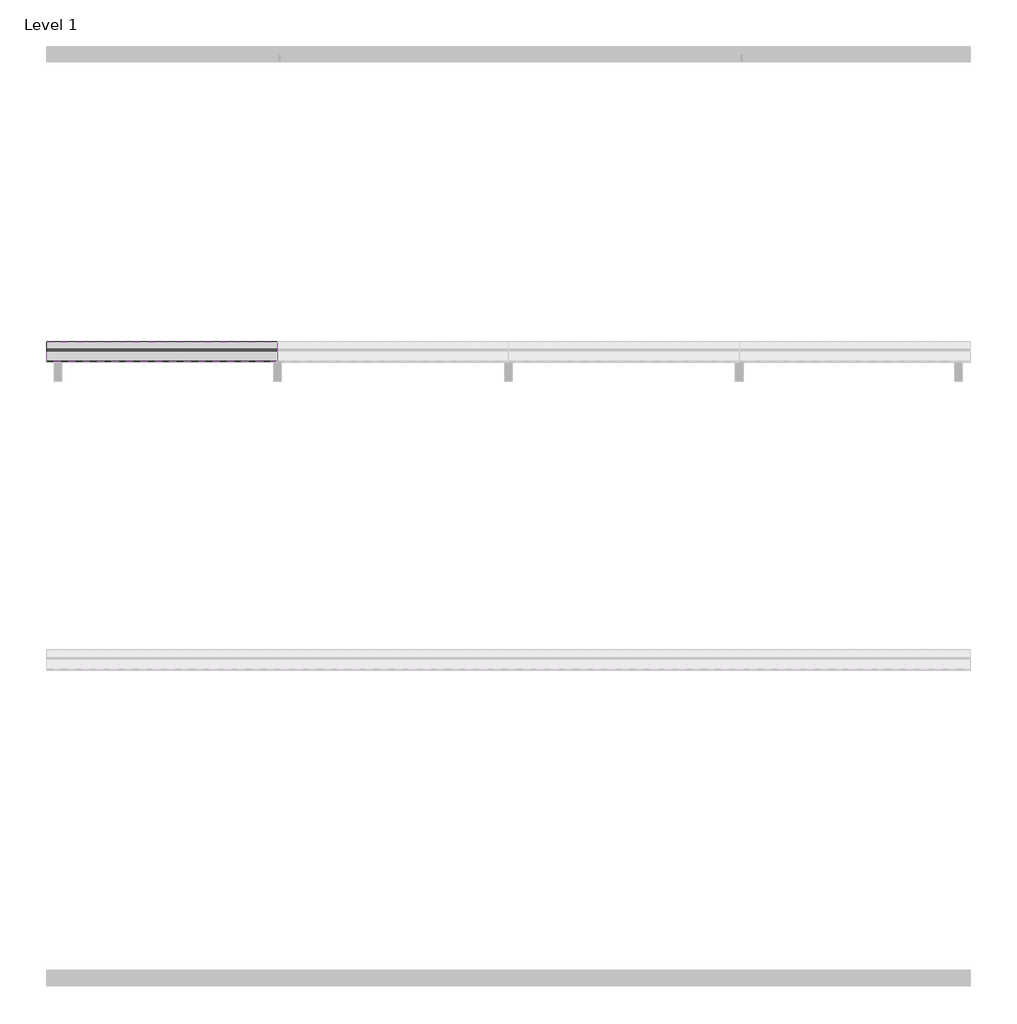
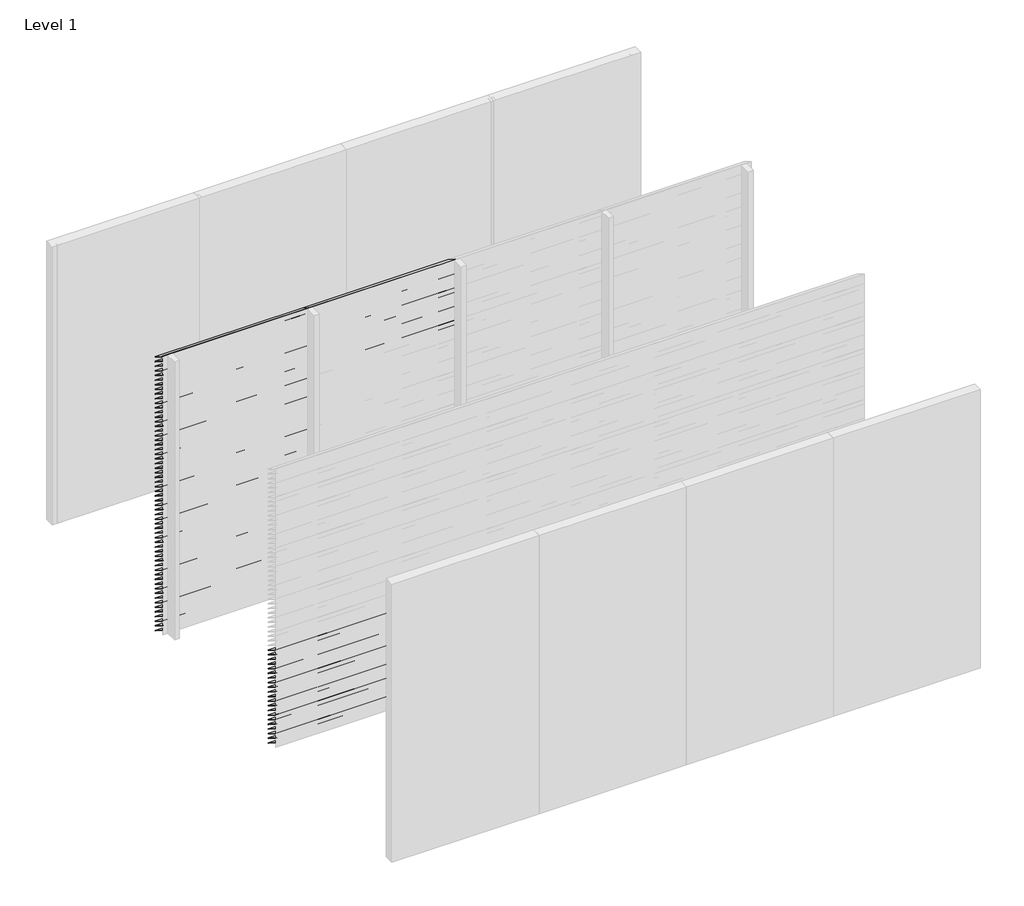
# One storey, part 2 of 13: 96 proxies.
"""IFC4 building model written with IfcOpenShell, lengths in millimetres."""

from ifc_helpers import new_model, si_unit, frame, origin, place, context, project, spatial, polyline, outline, extrude, element, save

model = new_model("IFC4")

# Units and contexts
model_context = context("Model", 3, world=origin())
ifc_project = project(units=[si_unit("LENGTHUNIT", "METRE", prefix="MILLI")], contexts=[model_context])

# Site, building, storey
site = spatial("IfcSite", under=ifc_project)
building = spatial("IfcBuilding", under=site)
storey = spatial("IfcBuildingStorey", under=building, Name="Level 1", Elevation=0.0)

# Proxies
placement = place(None, origin())
element("IfcBuildingElementProxy", 1, Name="Wall Sweeps", at=placement, inside=storey, context=model_context, shape_type="SweptSolid", body=[
    extrude(outline(polyline([(-17995.0, 3000.0), (-17995.0, 2998.0), (-17868.0, 2919.0), (-17868.0, 2913.0), (-17997.0, 2993.2440945), (-17997.0, 3000.0), (-17995.0, 3000.0)])), frame((1500.0000002, 0.0, 0.0), z_axis=(1.0, 0.0, 0.0), x_axis=(0.0, 1.0, 0.0)), (0.0, 0.0, 1.0), 1499.9999998),
])
element("IfcBuildingElementProxy", 2, Name="Wall Sweeps", at=placement, inside=storey, context=model_context, shape_type="SweptSolid", body=[
    extrude(outline(polyline([(-17995.0, 2950.0), (-17995.0, 2948.0), (-17868.0, 2869.0), (-17868.0, 2863.0), (-17997.0, 2943.2440945), (-17997.0, 2950.0), (-17995.0, 2950.0)])), frame((1500.0000002, 0.0, 0.0), z_axis=(1.0, 0.0, 0.0), x_axis=(0.0, 1.0, 0.0)), (0.0, 0.0, 1.0), 1499.9999998),
])
element("IfcBuildingElementProxy", 3, Name="Wall Sweeps", at=placement, inside=storey, context=model_context, shape_type="SweptSolid", body=[
    extrude(outline(polyline([(-17995.0, 2900.0), (-17995.0, 2898.0), (-17868.0, 2819.0), (-17868.0, 2813.0), (-17997.0, 2893.2440945), (-17997.0, 2900.0), (-17995.0, 2900.0)])), frame((1500.0000002, 0.0, 0.0), z_axis=(1.0, 0.0, 0.0), x_axis=(0.0, 1.0, 0.0)), (0.0, 0.0, 1.0), 1499.9999998),
])
element("IfcBuildingElementProxy", 4, Name="Wall Sweeps", at=placement, inside=storey, context=model_context, shape_type="SweptSolid", body=[
    extrude(outline(polyline([(-17995.0, 2850.0), (-17995.0, 2848.0), (-17868.0, 2769.0), (-17868.0, 2763.0), (-17997.0, 2843.2440945), (-17997.0, 2850.0), (-17995.0, 2850.0)])), frame((1500.0000002, 0.0, 0.0), z_axis=(1.0, 0.0, 0.0), x_axis=(0.0, 1.0, 0.0)), (0.0, 0.0, 1.0), 1499.9999998),
])
element("IfcBuildingElementProxy", 5, Name="Wall Sweeps", at=placement, inside=storey, context=model_context, shape_type="SweptSolid", body=[
    extrude(outline(polyline([(-17995.0, 2800.0), (-17995.0, 2798.0), (-17868.0, 2719.0), (-17868.0, 2713.0), (-17997.0, 2793.2440945), (-17997.0, 2800.0), (-17995.0, 2800.0)])), frame((1500.0000002, 0.0, 0.0), z_axis=(1.0, 0.0, 0.0), x_axis=(0.0, 1.0, 0.0)), (0.0, 0.0, 1.0), 1499.9999998),
])
element("IfcBuildingElementProxy", 6, Name="Wall Sweeps", at=placement, inside=storey, context=model_context, shape_type="SweptSolid", body=[
    extrude(outline(polyline([(-17995.0, 2750.0), (-17995.0, 2748.0), (-17868.0, 2669.0), (-17868.0, 2663.0), (-17997.0, 2743.2440945), (-17997.0, 2750.0), (-17995.0, 2750.0)])), frame((1500.0000002, 0.0, 0.0), z_axis=(1.0, 0.0, 0.0), x_axis=(0.0, 1.0, 0.0)), (0.0, 0.0, 1.0), 1499.9999998),
])
element("IfcBuildingElementProxy", 7, Name="Wall Sweeps", at=placement, inside=storey, context=model_context, shape_type="SweptSolid", body=[
    extrude(outline(polyline([(-17995.0, 2700.0), (-17995.0, 2698.0), (-17868.0, 2619.0), (-17868.0, 2613.0), (-17997.0, 2693.2440945), (-17997.0, 2700.0), (-17995.0, 2700.0)])), frame((1500.0000002, 0.0, 0.0), z_axis=(1.0, 0.0, 0.0), x_axis=(0.0, 1.0, 0.0)), (0.0, 0.0, 1.0), 1499.9999998),
])
element("IfcBuildingElementProxy", 8, Name="Wall Sweeps", at=placement, inside=storey, context=model_context, shape_type="SweptSolid", body=[
    extrude(outline(polyline([(-17995.0, 2650.0), (-17995.0, 2648.0), (-17868.0, 2569.0), (-17868.0, 2563.0), (-17997.0, 2643.2440945), (-17997.0, 2650.0), (-17995.0, 2650.0)])), frame((1500.0000002, 0.0, 0.0), z_axis=(1.0, 0.0, 0.0), x_axis=(0.0, 1.0, 0.0)), (0.0, 0.0, 1.0), 1499.9999998),
])
element("IfcBuildingElementProxy", 9, Name="Wall Sweeps", at=placement, inside=storey, context=model_context, shape_type="SweptSolid", body=[
    extrude(outline(polyline([(-17995.0, 2600.0), (-17995.0, 2598.0), (-17868.0, 2519.0), (-17868.0, 2513.0), (-17997.0, 2593.2440945), (-17997.0, 2600.0), (-17995.0, 2600.0)])), frame((1500.0000002, 0.0, 0.0), z_axis=(1.0, 0.0, 0.0), x_axis=(0.0, 1.0, 0.0)), (0.0, 0.0, 1.0), 1499.9999998),
])
element("IfcBuildingElementProxy", 10, Name="Wall Sweeps", at=placement, inside=storey, context=model_context, shape_type="SweptSolid", body=[
    extrude(outline(polyline([(-17995.0, 2550.0), (-17995.0, 2548.0), (-17868.0, 2469.0), (-17868.0, 2463.0), (-17997.0, 2543.2440945), (-17997.0, 2550.0), (-17995.0, 2550.0)])), frame((1500.0000002, 0.0, 0.0), z_axis=(1.0, 0.0, 0.0), x_axis=(0.0, 1.0, 0.0)), (0.0, 0.0, 1.0), 1499.9999998),
])
element("IfcBuildingElementProxy", 11, Name="Wall Sweeps", at=placement, inside=storey, context=model_context, shape_type="SweptSolid", body=[
    extrude(outline(polyline([(-17995.0, 2500.0), (-17995.0, 2498.0), (-17868.0, 2419.0), (-17868.0, 2413.0), (-17997.0, 2493.2440945), (-17997.0, 2500.0), (-17995.0, 2500.0)])), frame((1500.0000002, 0.0, 0.0), z_axis=(1.0, 0.0, 0.0), x_axis=(0.0, 1.0, 0.0)), (0.0, 0.0, 1.0), 1499.9999998),
])
element("IfcBuildingElementProxy", 12, Name="Wall Sweeps", at=placement, inside=storey, context=model_context, shape_type="SweptSolid", body=[
    extrude(outline(polyline([(-17995.0, 2450.0), (-17995.0, 2448.0), (-17868.0, 2369.0), (-17868.0, 2363.0), (-17997.0, 2443.2440945), (-17997.0, 2450.0), (-17995.0, 2450.0)])), frame((1500.0000002, 0.0, 0.0), z_axis=(1.0, 0.0, 0.0), x_axis=(0.0, 1.0, 0.0)), (0.0, 0.0, 1.0), 1499.9999998),
])
element("IfcBuildingElementProxy", 13, Name="Wall Sweeps", at=placement, inside=storey, context=model_context, shape_type="SweptSolid", body=[
    extrude(outline(polyline([(-17995.0, 2400.0), (-17995.0, 2398.0), (-17868.0, 2319.0), (-17868.0, 2313.0), (-17997.0, 2393.2440945), (-17997.0, 2400.0), (-17995.0, 2400.0)])), frame((1500.0000002, 0.0, 0.0), z_axis=(1.0, 0.0, 0.0), x_axis=(0.0, 1.0, 0.0)), (0.0, 0.0, 1.0), 1499.9999998),
])
element("IfcBuildingElementProxy", 14, Name="Wall Sweeps", at=placement, inside=storey, context=model_context, shape_type="SweptSolid", body=[
    extrude(outline(polyline([(-17995.0, 2350.0), (-17995.0, 2348.0), (-17868.0, 2269.0), (-17868.0, 2263.0), (-17997.0, 2343.2440945), (-17997.0, 2350.0), (-17995.0, 2350.0)])), frame((1500.0000002, 0.0, 0.0), z_axis=(1.0, 0.0, 0.0), x_axis=(0.0, 1.0, 0.0)), (0.0, 0.0, 1.0), 1499.9999998),
])
element("IfcBuildingElementProxy", 15, Name="Wall Sweeps", at=placement, inside=storey, context=model_context, shape_type="SweptSolid", body=[
    extrude(outline(polyline([(-17995.0, 2300.0), (-17995.0, 2298.0), (-17868.0, 2219.0), (-17868.0, 2213.0), (-17997.0, 2293.2440945), (-17997.0, 2300.0), (-17995.0, 2300.0)])), frame((1500.0000002, 0.0, 0.0), z_axis=(1.0, 0.0, 0.0), x_axis=(0.0, 1.0, 0.0)), (0.0, 0.0, 1.0), 1499.9999998),
])
element("IfcBuildingElementProxy", 16, Name="Wall Sweeps", at=placement, inside=storey, context=model_context, shape_type="SweptSolid", body=[
    extrude(outline(polyline([(-17995.0, 3000.0), (-17995.0, 2998.0), (-17868.0, 2919.0), (-17868.0, 2913.0), (-17997.0, 2993.2440945), (-17997.0, 3000.0), (-17995.0, 3000.0)])), frame((0.0, 0.0, 0.0), z_axis=(1.0, 0.0, 0.0), x_axis=(0.0, 1.0, 0.0)), (0.0, 0.0, 1.0), 1500.0000002),
])
element("IfcBuildingElementProxy", 17, Name="Wall Sweeps", at=placement, inside=storey, context=model_context, shape_type="SweptSolid", body=[
    extrude(outline(polyline([(-17995.0, 2950.0), (-17995.0, 2948.0), (-17868.0, 2869.0), (-17868.0, 2863.0), (-17997.0, 2943.2440945), (-17997.0, 2950.0), (-17995.0, 2950.0)])), frame((0.0, 0.0, 0.0), z_axis=(1.0, 0.0, 0.0), x_axis=(0.0, 1.0, 0.0)), (0.0, 0.0, 1.0), 1500.0000002),
])
element("IfcBuildingElementProxy", 18, Name="Wall Sweeps", at=placement, inside=storey, context=model_context, shape_type="SweptSolid", body=[
    extrude(outline(polyline([(-17995.0, 2900.0), (-17995.0, 2898.0), (-17868.0, 2819.0), (-17868.0, 2813.0), (-17997.0, 2893.2440945), (-17997.0, 2900.0), (-17995.0, 2900.0)])), frame((0.0, 0.0, 0.0), z_axis=(1.0, 0.0, 0.0), x_axis=(0.0, 1.0, 0.0)), (0.0, 0.0, 1.0), 1500.0000002),
])
element("IfcBuildingElementProxy", 19, Name="Wall Sweeps", at=placement, inside=storey, context=model_context, shape_type="SweptSolid", body=[
    extrude(outline(polyline([(-17995.0, 2850.0), (-17995.0, 2848.0), (-17868.0, 2769.0), (-17868.0, 2763.0), (-17997.0, 2843.2440945), (-17997.0, 2850.0), (-17995.0, 2850.0)])), frame((0.0, 0.0, 0.0), z_axis=(1.0, 0.0, 0.0), x_axis=(0.0, 1.0, 0.0)), (0.0, 0.0, 1.0), 1500.0000002),
])
element("IfcBuildingElementProxy", 20, Name="Wall Sweeps", at=placement, inside=storey, context=model_context, shape_type="SweptSolid", body=[
    extrude(outline(polyline([(-17995.0, 2800.0), (-17995.0, 2798.0), (-17868.0, 2719.0), (-17868.0, 2713.0), (-17997.0, 2793.2440945), (-17997.0, 2800.0), (-17995.0, 2800.0)])), frame((0.0, 0.0, 0.0), z_axis=(1.0, 0.0, 0.0), x_axis=(0.0, 1.0, 0.0)), (0.0, 0.0, 1.0), 1500.0000002),
])
element("IfcBuildingElementProxy", 21, Name="Wall Sweeps", at=placement, inside=storey, context=model_context, shape_type="SweptSolid", body=[
    extrude(outline(polyline([(-17995.0, 2750.0), (-17995.0, 2748.0), (-17868.0, 2669.0), (-17868.0, 2663.0), (-17997.0, 2743.2440945), (-17997.0, 2750.0), (-17995.0, 2750.0)])), frame((0.0, 0.0, 0.0), z_axis=(1.0, 0.0, 0.0), x_axis=(0.0, 1.0, 0.0)), (0.0, 0.0, 1.0), 1500.0000002),
])
element("IfcBuildingElementProxy", 22, Name="Wall Sweeps", at=placement, inside=storey, context=model_context, shape_type="SweptSolid", body=[
    extrude(outline(polyline([(-17995.0, 2700.0), (-17995.0, 2698.0), (-17868.0, 2619.0), (-17868.0, 2613.0), (-17997.0, 2693.2440945), (-17997.0, 2700.0), (-17995.0, 2700.0)])), frame((0.0, 0.0, 0.0), z_axis=(1.0, 0.0, 0.0), x_axis=(0.0, 1.0, 0.0)), (0.0, 0.0, 1.0), 1500.0000002),
])
element("IfcBuildingElementProxy", 23, Name="Wall Sweeps", at=placement, inside=storey, context=model_context, shape_type="SweptSolid", body=[
    extrude(outline(polyline([(-17995.0, 2650.0), (-17995.0, 2648.0), (-17868.0, 2569.0), (-17868.0, 2563.0), (-17997.0, 2643.2440945), (-17997.0, 2650.0), (-17995.0, 2650.0)])), frame((0.0, 0.0, 0.0), z_axis=(1.0, 0.0, 0.0), x_axis=(0.0, 1.0, 0.0)), (0.0, 0.0, 1.0), 1500.0000002),
])
element("IfcBuildingElementProxy", 24, Name="Wall Sweeps", at=placement, inside=storey, context=model_context, shape_type="SweptSolid", body=[
    extrude(outline(polyline([(-17995.0, 2600.0), (-17995.0, 2598.0), (-17868.0, 2519.0), (-17868.0, 2513.0), (-17997.0, 2593.2440945), (-17997.0, 2600.0), (-17995.0, 2600.0)])), frame((0.0, 0.0, 0.0), z_axis=(1.0, 0.0, 0.0), x_axis=(0.0, 1.0, 0.0)), (0.0, 0.0, 1.0), 1500.0000002),
])
element("IfcBuildingElementProxy", 25, Name="Wall Sweeps", at=placement, inside=storey, context=model_context, shape_type="SweptSolid", body=[
    extrude(outline(polyline([(-17995.0, 2550.0), (-17995.0, 2548.0), (-17868.0, 2469.0), (-17868.0, 2463.0), (-17997.0, 2543.2440945), (-17997.0, 2550.0), (-17995.0, 2550.0)])), frame((0.0, 0.0, 0.0), z_axis=(1.0, 0.0, 0.0), x_axis=(0.0, 1.0, 0.0)), (0.0, 0.0, 1.0), 1500.0000002),
])
element("IfcBuildingElementProxy", 26, Name="Wall Sweeps", at=placement, inside=storey, context=model_context, shape_type="SweptSolid", body=[
    extrude(outline(polyline([(-17995.0, 2500.0), (-17995.0, 2498.0), (-17868.0, 2419.0), (-17868.0, 2413.0), (-17997.0, 2493.2440945), (-17997.0, 2500.0), (-17995.0, 2500.0)])), frame((0.0, 0.0, 0.0), z_axis=(1.0, 0.0, 0.0), x_axis=(0.0, 1.0, 0.0)), (0.0, 0.0, 1.0), 1500.0000002),
])
element("IfcBuildingElementProxy", 27, Name="Wall Sweeps", at=placement, inside=storey, context=model_context, shape_type="SweptSolid", body=[
    extrude(outline(polyline([(-17995.0, 2450.0), (-17995.0, 2448.0), (-17868.0, 2369.0), (-17868.0, 2363.0), (-17997.0, 2443.2440945), (-17997.0, 2450.0), (-17995.0, 2450.0)])), frame((0.0, 0.0, 0.0), z_axis=(1.0, 0.0, 0.0), x_axis=(0.0, 1.0, 0.0)), (0.0, 0.0, 1.0), 1500.0000002),
])
element("IfcBuildingElementProxy", 28, Name="Wall Sweeps", at=placement, inside=storey, context=model_context, shape_type="SweptSolid", body=[
    extrude(outline(polyline([(-17995.0, 2400.0), (-17995.0, 2398.0), (-17868.0, 2319.0), (-17868.0, 2313.0), (-17997.0, 2393.2440945), (-17997.0, 2400.0), (-17995.0, 2400.0)])), frame((0.0, 0.0, 0.0), z_axis=(1.0, 0.0, 0.0), x_axis=(0.0, 1.0, 0.0)), (0.0, 0.0, 1.0), 1500.0000002),
])
element("IfcBuildingElementProxy", 29, Name="Wall Sweeps", at=placement, inside=storey, context=model_context, shape_type="SweptSolid", body=[
    extrude(outline(polyline([(-17995.0, 2350.0), (-17995.0, 2348.0), (-17868.0, 2269.0), (-17868.0, 2263.0), (-17997.0, 2343.2440945), (-17997.0, 2350.0), (-17995.0, 2350.0)])), frame((0.0, 0.0, 0.0), z_axis=(1.0, 0.0, 0.0), x_axis=(0.0, 1.0, 0.0)), (0.0, 0.0, 1.0), 1500.0000002),
])
element("IfcBuildingElementProxy", 30, Name="Wall Sweeps", at=placement, inside=storey, context=model_context, shape_type="SweptSolid", body=[
    extrude(outline(polyline([(-17995.0, 2300.0), (-17995.0, 2298.0), (-17868.0, 2219.0), (-17868.0, 2213.0), (-17997.0, 2293.2440945), (-17997.0, 2300.0), (-17995.0, 2300.0)])), frame((0.0, 0.0, 0.0), z_axis=(1.0, 0.0, 0.0), x_axis=(0.0, 1.0, 0.0)), (0.0, 0.0, 1.0), 1500.0000002),
])
element("IfcBuildingElementProxy", 31, Name="Wall Sweeps", at=placement, inside=storey, context=model_context, shape_type="SweptSolid", body=[
    extrude(outline(polyline([(-17995.0, 2250.0), (-17995.0, 2248.0), (-17868.0, 2169.0), (-17868.0, 2163.0), (-17997.0, 2243.2440945), (-17997.0, 2250.0), (-17995.0, 2250.0)])), frame((0.0, 0.0, 0.0), z_axis=(1.0, 0.0, 0.0), x_axis=(0.0, 1.0, 0.0)), (0.0, 0.0, 1.0), 1500.0000002),
])
element("IfcBuildingElementProxy", 32, Name="Wall Sweeps", at=placement, inside=storey, context=model_context, shape_type="SweptSolid", body=[
    extrude(outline(polyline([(-17995.0, 2200.0), (-17995.0, 2198.0), (-17868.0, 2119.0), (-17868.0, 2113.0), (-17997.0, 2193.2440945), (-17997.0, 2200.0), (-17995.0, 2200.0)])), frame((0.0, 0.0, 0.0), z_axis=(1.0, 0.0, 0.0), x_axis=(0.0, 1.0, 0.0)), (0.0, 0.0, 1.0), 1500.0000002),
])
element("IfcBuildingElementProxy", 33, Name="Wall Sweeps", at=placement, inside=storey, context=model_context, shape_type="SweptSolid", body=[
    extrude(outline(polyline([(-17995.0, 2150.0), (-17995.0, 2148.0), (-17868.0, 2069.0), (-17868.0, 2063.0), (-17997.0, 2143.2440945), (-17997.0, 2150.0), (-17995.0, 2150.0)])), frame((0.0, 0.0, 0.0), z_axis=(1.0, 0.0, 0.0), x_axis=(0.0, 1.0, 0.0)), (0.0, 0.0, 1.0), 1500.0000002),
])
element("IfcBuildingElementProxy", 34, Name="Wall Sweeps", at=placement, inside=storey, context=model_context, shape_type="SweptSolid", body=[
    extrude(outline(polyline([(-17995.0, 2100.0), (-17995.0, 2098.0), (-17868.0, 2019.0), (-17868.0, 2013.0), (-17997.0, 2093.2440945), (-17997.0, 2100.0), (-17995.0, 2100.0)])), frame((0.0, 0.0, 0.0), z_axis=(1.0, 0.0, 0.0), x_axis=(0.0, 1.0, 0.0)), (0.0, 0.0, 1.0), 1500.0000002),
])
element("IfcBuildingElementProxy", 35, Name="Wall Sweeps", at=placement, inside=storey, context=model_context, shape_type="SweptSolid", body=[
    extrude(outline(polyline([(-17995.0, 2050.0), (-17995.0, 2048.0), (-17868.0, 1969.0), (-17868.0, 1963.0), (-17997.0, 2043.2440945), (-17997.0, 2050.0), (-17995.0, 2050.0)])), frame((0.0, 0.0, 0.0), z_axis=(1.0, 0.0, 0.0), x_axis=(0.0, 1.0, 0.0)), (0.0, 0.0, 1.0), 1500.0000002),
])
element("IfcBuildingElementProxy", 36, Name="Wall Sweeps", at=placement, inside=storey, context=model_context, shape_type="SweptSolid", body=[
    extrude(outline(polyline([(-17995.0, 2000.0), (-17995.0, 1998.0), (-17868.0, 1919.0), (-17868.0, 1913.0), (-17997.0, 1993.2440945), (-17997.0, 2000.0), (-17995.0, 2000.0)])), frame((0.0, 0.0, 0.0), z_axis=(1.0, 0.0, 0.0), x_axis=(0.0, 1.0, 0.0)), (0.0, 0.0, 1.0), 1500.0000002),
])
element("IfcBuildingElementProxy", 37, Name="Wall Sweeps", at=placement, inside=storey, context=model_context, shape_type="SweptSolid", body=[
    extrude(outline(polyline([(-17995.0, 1950.0), (-17995.0, 1948.0), (-17868.0, 1869.0), (-17868.0, 1863.0), (-17997.0, 1943.2440945), (-17997.0, 1950.0), (-17995.0, 1950.0)])), frame((0.0, 0.0, 0.0), z_axis=(1.0, 0.0, 0.0), x_axis=(0.0, 1.0, 0.0)), (0.0, 0.0, 1.0), 1500.0000002),
])
element("IfcBuildingElementProxy", 38, Name="Wall Sweeps", at=placement, inside=storey, context=model_context, shape_type="SweptSolid", body=[
    extrude(outline(polyline([(-17995.0, 1900.0), (-17995.0, 1898.0), (-17868.0, 1819.0), (-17868.0, 1813.0), (-17997.0, 1893.2440945), (-17997.0, 1900.0), (-17995.0, 1900.0)])), frame((0.0, 0.0, 0.0), z_axis=(1.0, 0.0, 0.0), x_axis=(0.0, 1.0, 0.0)), (0.0, 0.0, 1.0), 1500.0000002),
])
element("IfcBuildingElementProxy", 39, Name="Wall Sweeps", at=placement, inside=storey, context=model_context, shape_type="SweptSolid", body=[
    extrude(outline(polyline([(-17995.0, 1850.0), (-17995.0, 1848.0), (-17868.0, 1769.0), (-17868.0, 1763.0), (-17997.0, 1843.2440945), (-17997.0, 1850.0), (-17995.0, 1850.0)])), frame((0.0, 0.0, 0.0), z_axis=(1.0, 0.0, 0.0), x_axis=(0.0, 1.0, 0.0)), (0.0, 0.0, 1.0), 1500.0000002),
])
element("IfcBuildingElementProxy", 40, Name="Wall Sweeps", at=placement, inside=storey, context=model_context, shape_type="SweptSolid", body=[
    extrude(outline(polyline([(-17995.0, 1800.0), (-17995.0, 1798.0), (-17868.0, 1719.0), (-17868.0, 1713.0), (-17997.0, 1793.2440945), (-17997.0, 1800.0), (-17995.0, 1800.0)])), frame((0.0, 0.0, 0.0), z_axis=(1.0, 0.0, 0.0), x_axis=(0.0, 1.0, 0.0)), (0.0, 0.0, 1.0), 1500.0000002),
])
element("IfcBuildingElementProxy", 41, Name="Wall Sweeps", at=placement, inside=storey, context=model_context, shape_type="SweptSolid", body=[
    extrude(outline(polyline([(-17995.0, 1750.0), (-17995.0, 1748.0), (-17868.0, 1669.0), (-17868.0, 1663.0), (-17997.0, 1743.2440945), (-17997.0, 1750.0), (-17995.0, 1750.0)])), frame((0.0, 0.0, 0.0), z_axis=(1.0, 0.0, 0.0), x_axis=(0.0, 1.0, 0.0)), (0.0, 0.0, 1.0), 1500.0000002),
])
element("IfcBuildingElementProxy", 42, Name="Wall Sweeps", at=placement, inside=storey, context=model_context, shape_type="SweptSolid", body=[
    extrude(outline(polyline([(-17995.0, 1700.0), (-17995.0, 1698.0), (-17868.0, 1619.0), (-17868.0, 1613.0), (-17997.0, 1693.2440945), (-17997.0, 1700.0), (-17995.0, 1700.0)])), frame((0.0, 0.0, 0.0), z_axis=(1.0, 0.0, 0.0), x_axis=(0.0, 1.0, 0.0)), (0.0, 0.0, 1.0), 1500.0000002),
])
element("IfcBuildingElementProxy", 43, Name="Wall Sweeps", at=placement, inside=storey, context=model_context, shape_type="SweptSolid", body=[
    extrude(outline(polyline([(-17995.0, 1650.0), (-17995.0, 1648.0), (-17868.0, 1569.0), (-17868.0, 1563.0), (-17997.0, 1643.2440945), (-17997.0, 1650.0), (-17995.0, 1650.0)])), frame((0.0, 0.0, 0.0), z_axis=(1.0, 0.0, 0.0), x_axis=(0.0, 1.0, 0.0)), (0.0, 0.0, 1.0), 1500.0000002),
])
element("IfcBuildingElementProxy", 44, Name="Wall Sweeps", at=placement, inside=storey, context=model_context, shape_type="SweptSolid", body=[
    extrude(outline(polyline([(-17995.0, 1600.0), (-17995.0, 1598.0), (-17868.0, 1519.0), (-17868.0, 1513.0), (-17997.0, 1593.2440945), (-17997.0, 1600.0), (-17995.0, 1600.0)])), frame((0.0, 0.0, 0.0), z_axis=(1.0, 0.0, 0.0), x_axis=(0.0, 1.0, 0.0)), (0.0, 0.0, 1.0), 1500.0000002),
])
element("IfcBuildingElementProxy", 45, Name="Wall Sweeps", at=placement, inside=storey, context=model_context, shape_type="SweptSolid", body=[
    extrude(outline(polyline([(-17995.0, 1550.0), (-17995.0, 1548.0), (-17868.0, 1469.0), (-17868.0, 1463.0), (-17997.0, 1543.2440945), (-17997.0, 1550.0), (-17995.0, 1550.0)])), frame((0.0, 0.0, 0.0), z_axis=(1.0, 0.0, 0.0), x_axis=(0.0, 1.0, 0.0)), (0.0, 0.0, 1.0), 1500.0000002),
])
element("IfcBuildingElementProxy", 46, Name="Wall Sweeps", at=placement, inside=storey, context=model_context, shape_type="SweptSolid", body=[
    extrude(outline(polyline([(-17995.0, 1500.0), (-17995.0, 1498.0), (-17868.0, 1419.0), (-17868.0, 1413.0), (-17997.0, 1493.2440945), (-17997.0, 1500.0), (-17995.0, 1500.0)])), frame((0.0, 0.0, 0.0), z_axis=(1.0, 0.0, 0.0), x_axis=(0.0, 1.0, 0.0)), (0.0, 0.0, 1.0), 1500.0000002),
])
element("IfcBuildingElementProxy", 47, Name="Wall Sweeps", at=placement, inside=storey, context=model_context, shape_type="SweptSolid", body=[
    extrude(outline(polyline([(-17995.0, 1450.0), (-17995.0, 1448.0), (-17868.0, 1369.0), (-17868.0, 1363.0), (-17997.0, 1443.2440945), (-17997.0, 1450.0), (-17995.0, 1450.0)])), frame((0.0, 0.0, 0.0), z_axis=(1.0, 0.0, 0.0), x_axis=(0.0, 1.0, 0.0)), (0.0, 0.0, 1.0), 1500.0000002),
])
element("IfcBuildingElementProxy", 48, Name="Wall Sweeps", at=placement, inside=storey, context=model_context, shape_type="SweptSolid", body=[
    extrude(outline(polyline([(-17995.0, 1400.0), (-17995.0, 1398.0), (-17868.0, 1319.0), (-17868.0, 1313.0), (-17997.0, 1393.2440945), (-17997.0, 1400.0), (-17995.0, 1400.0)])), frame((0.0, 0.0, 0.0), z_axis=(1.0, 0.0, 0.0), x_axis=(0.0, 1.0, 0.0)), (0.0, 0.0, 1.0), 1500.0000002),
])
element("IfcBuildingElementProxy", 49, Name="Wall Sweeps", at=placement, inside=storey, context=model_context, shape_type="SweptSolid", body=[
    extrude(outline(polyline([(-17995.0, 1350.0), (-17995.0, 1348.0), (-17868.0, 1269.0), (-17868.0, 1263.0), (-17997.0, 1343.2440945), (-17997.0, 1350.0), (-17995.0, 1350.0)])), frame((0.0, 0.0, 0.0), z_axis=(1.0, 0.0, 0.0), x_axis=(0.0, 1.0, 0.0)), (0.0, 0.0, 1.0), 1500.0000002),
])
element("IfcBuildingElementProxy", 50, Name="Wall Sweeps", at=placement, inside=storey, context=model_context, shape_type="SweptSolid", body=[
    extrude(outline(polyline([(-17995.0, 1300.0), (-17995.0, 1298.0), (-17868.0, 1219.0), (-17868.0, 1213.0), (-17997.0, 1293.2440945), (-17997.0, 1300.0), (-17995.0, 1300.0)])), frame((0.0, 0.0, 0.0), z_axis=(1.0, 0.0, 0.0), x_axis=(0.0, 1.0, 0.0)), (0.0, 0.0, 1.0), 1500.0000002),
])
element("IfcBuildingElementProxy", 51, Name="Wall Sweeps", at=placement, inside=storey, context=model_context, shape_type="SweptSolid", body=[
    extrude(outline(polyline([(-17995.0, 1250.0), (-17995.0, 1248.0), (-17868.0, 1169.0), (-17868.0, 1163.0), (-17997.0, 1243.2440945), (-17997.0, 1250.0), (-17995.0, 1250.0)])), frame((0.0, 0.0, 0.0), z_axis=(1.0, 0.0, 0.0), x_axis=(0.0, 1.0, 0.0)), (0.0, 0.0, 1.0), 1500.0000002),
])
element("IfcBuildingElementProxy", 52, Name="Wall Sweeps", at=placement, inside=storey, context=model_context, shape_type="SweptSolid", body=[
    extrude(outline(polyline([(-17995.0, 1200.0), (-17995.0, 1198.0), (-17868.0, 1119.0), (-17868.0, 1113.0), (-17997.0, 1193.2440945), (-17997.0, 1200.0), (-17995.0, 1200.0)])), frame((0.0, 0.0, 0.0), z_axis=(1.0, 0.0, 0.0), x_axis=(0.0, 1.0, 0.0)), (0.0, 0.0, 1.0), 1500.0000002),
])
element("IfcBuildingElementProxy", 53, Name="Wall Sweeps", at=placement, inside=storey, context=model_context, shape_type="SweptSolid", body=[
    extrude(outline(polyline([(-17995.0, 1150.0), (-17995.0, 1148.0), (-17868.0, 1069.0), (-17868.0, 1063.0), (-17997.0, 1143.2440945), (-17997.0, 1150.0), (-17995.0, 1150.0)])), frame((0.0, 0.0, 0.0), z_axis=(1.0, 0.0, 0.0), x_axis=(0.0, 1.0, 0.0)), (0.0, 0.0, 1.0), 1500.0000002),
])
element("IfcBuildingElementProxy", 54, Name="Wall Sweeps", at=placement, inside=storey, context=model_context, shape_type="SweptSolid", body=[
    extrude(outline(polyline([(-17995.0, 1100.0), (-17995.0, 1098.0), (-17868.0, 1019.0), (-17868.0, 1013.0), (-17997.0, 1093.2440945), (-17997.0, 1100.0), (-17995.0, 1100.0)])), frame((0.0, 0.0, 0.0), z_axis=(1.0, 0.0, 0.0), x_axis=(0.0, 1.0, 0.0)), (0.0, 0.0, 1.0), 1500.0000002),
])
element("IfcBuildingElementProxy", 55, Name="Wall Sweeps", at=placement, inside=storey, context=model_context, shape_type="SweptSolid", body=[
    extrude(outline(polyline([(-17995.0, 1050.0), (-17995.0, 1048.0), (-17868.0, 969.0), (-17868.0, 963.0), (-17997.0, 1043.2440945), (-17997.0, 1050.0), (-17995.0, 1050.0)])), frame((0.0, 0.0, 0.0), z_axis=(1.0, 0.0, 0.0), x_axis=(0.0, 1.0, 0.0)), (0.0, 0.0, 1.0), 1500.0000002),
])
element("IfcBuildingElementProxy", 56, Name="Wall Sweeps", at=placement, inside=storey, context=model_context, shape_type="SweptSolid", body=[
    extrude(outline(polyline([(-17995.0, 1000.0), (-17995.0, 998.0), (-17868.0, 919.0), (-17868.0, 913.0), (-17997.0, 993.2440945), (-17997.0, 1000.0), (-17995.0, 1000.0)])), frame((0.0, 0.0, 0.0), z_axis=(1.0, 0.0, 0.0), x_axis=(0.0, 1.0, 0.0)), (0.0, 0.0, 1.0), 1500.0000002),
])
element("IfcBuildingElementProxy", 57, Name="Wall Sweeps", at=placement, inside=storey, context=model_context, shape_type="SweptSolid", body=[
    extrude(outline(polyline([(-17995.0, 950.0), (-17995.0, 948.0), (-17868.0, 869.0), (-17868.0, 863.0), (-17997.0, 943.2440945), (-17997.0, 950.0), (-17995.0, 950.0)])), frame((0.0, 0.0, 0.0), z_axis=(1.0, 0.0, 0.0), x_axis=(0.0, 1.0, 0.0)), (0.0, 0.0, 1.0), 1500.0000002),
])
element("IfcBuildingElementProxy", 58, Name="Wall Sweeps", at=placement, inside=storey, context=model_context, shape_type="SweptSolid", body=[
    extrude(outline(polyline([(-17995.0, 900.0), (-17995.0, 898.0), (-17868.0, 819.0), (-17868.0, 813.0), (-17997.0, 893.2440945), (-17997.0, 900.0), (-17995.0, 900.0)])), frame((0.0, 0.0, 0.0), z_axis=(1.0, 0.0, 0.0), x_axis=(0.0, 1.0, 0.0)), (0.0, 0.0, 1.0), 1500.0000002),
])
element("IfcBuildingElementProxy", 59, Name="Wall Sweeps", at=placement, inside=storey, context=model_context, shape_type="SweptSolid", body=[
    extrude(outline(polyline([(-17995.0, 850.0), (-17995.0, 848.0), (-17868.0, 769.0), (-17868.0, 763.0), (-17997.0, 843.2440945), (-17997.0, 850.0), (-17995.0, 850.0)])), frame((0.0, 0.0, 0.0), z_axis=(1.0, 0.0, 0.0), x_axis=(0.0, 1.0, 0.0)), (0.0, 0.0, 1.0), 1500.0000002),
])
element("IfcBuildingElementProxy", 60, Name="Wall Sweeps", at=placement, inside=storey, context=model_context, shape_type="SweptSolid", body=[
    extrude(outline(polyline([(-17995.0, 800.0), (-17995.0, 798.0), (-17868.0, 719.0), (-17868.0, 713.0), (-17997.0, 793.2440945), (-17997.0, 800.0), (-17995.0, 800.0)])), frame((0.0, 0.0, 0.0), z_axis=(1.0, 0.0, 0.0), x_axis=(0.0, 1.0, 0.0)), (0.0, 0.0, 1.0), 1500.0000002),
])
element("IfcBuildingElementProxy", 61, Name="Wall Sweeps", at=placement, inside=storey, context=model_context, shape_type="SweptSolid", body=[
    extrude(outline(polyline([(-17995.0, 750.0), (-17995.0, 748.0), (-17868.0, 669.0), (-17868.0, 663.0), (-17997.0, 743.2440945), (-17997.0, 750.0), (-17995.0, 750.0)])), frame((0.0, 0.0, 0.0), z_axis=(1.0, 0.0, 0.0), x_axis=(0.0, 1.0, 0.0)), (0.0, 0.0, 1.0), 1500.0000002),
])
element("IfcBuildingElementProxy", 62, Name="Wall Sweeps", at=placement, inside=storey, context=model_context, shape_type="SweptSolid", body=[
    extrude(outline(polyline([(-17995.0, 700.0), (-17995.0, 698.0), (-17868.0, 619.0), (-17868.0, 613.0), (-17997.0, 693.2440945), (-17997.0, 700.0), (-17995.0, 700.0)])), frame((0.0, 0.0, 0.0), z_axis=(1.0, 0.0, 0.0), x_axis=(0.0, 1.0, 0.0)), (0.0, 0.0, 1.0), 1500.0000002),
])
element("IfcBuildingElementProxy", 63, Name="Wall Sweeps", at=placement, inside=storey, context=model_context, shape_type="SweptSolid", body=[
    extrude(outline(polyline([(-17995.0, 650.0), (-17995.0, 648.0), (-17868.0, 569.0), (-17868.0, 563.0), (-17997.0, 643.2440945), (-17997.0, 650.0), (-17995.0, 650.0)])), frame((0.0, 0.0, 0.0), z_axis=(1.0, 0.0, 0.0), x_axis=(0.0, 1.0, 0.0)), (0.0, 0.0, 1.0), 1500.0000002),
])
element("IfcBuildingElementProxy", 64, Name="Wall Sweeps", at=placement, inside=storey, context=model_context, shape_type="SweptSolid", body=[
    extrude(outline(polyline([(-17995.0, 600.0), (-17995.0, 598.0), (-17868.0, 519.0), (-17868.0, 513.0), (-17997.0, 593.2440945), (-17997.0, 600.0), (-17995.0, 600.0)])), frame((0.0, 0.0, 0.0), z_axis=(1.0, 0.0, 0.0), x_axis=(0.0, 1.0, 0.0)), (0.0, 0.0, 1.0), 1500.0000002),
])
element("IfcBuildingElementProxy", 65, Name="Wall Sweeps", at=placement, inside=storey, context=model_context, shape_type="SweptSolid", body=[
    extrude(outline(polyline([(-17995.0, 550.0), (-17995.0, 548.0), (-17868.0, 469.0), (-17868.0, 463.0), (-17997.0, 543.2440945), (-17997.0, 550.0), (-17995.0, 550.0)])), frame((0.0, 0.0, 0.0), z_axis=(1.0, 0.0, 0.0), x_axis=(0.0, 1.0, 0.0)), (0.0, 0.0, 1.0), 1500.0000002),
])
element("IfcBuildingElementProxy", 66, Name="Wall Sweeps", at=placement, inside=storey, context=model_context, shape_type="SweptSolid", body=[
    extrude(outline(polyline([(-17995.0, 500.0), (-17995.0, 498.0), (-17868.0, 419.0), (-17868.0, 413.0), (-17997.0, 493.2440945), (-17997.0, 500.0), (-17995.0, 500.0)])), frame((0.0, 0.0, 0.0), z_axis=(1.0, 0.0, 0.0), x_axis=(0.0, 1.0, 0.0)), (0.0, 0.0, 1.0), 1500.0000002),
])
element("IfcBuildingElementProxy", 67, Name="Wall Sweeps", at=placement, inside=storey, context=model_context, shape_type="SweptSolid", body=[
    extrude(outline(polyline([(-17995.0, 450.0), (-17995.0, 448.0), (-17868.0, 369.0), (-17868.0, 363.0), (-17997.0, 443.2440945), (-17997.0, 450.0), (-17995.0, 450.0)])), frame((0.0, 0.0, 0.0), z_axis=(1.0, 0.0, 0.0), x_axis=(0.0, 1.0, 0.0)), (0.0, 0.0, 1.0), 1500.0000002),
])
element("IfcBuildingElementProxy", 68, Name="Wall Sweeps", at=placement, inside=storey, context=model_context, shape_type="SweptSolid", body=[
    extrude(outline(polyline([(-17995.0, 400.0), (-17995.0, 398.0), (-17868.0, 319.0), (-17868.0, 313.0), (-17997.0, 393.2440945), (-17997.0, 400.0), (-17995.0, 400.0)])), frame((0.0, 0.0, 0.0), z_axis=(1.0, 0.0, 0.0), x_axis=(0.0, 1.0, 0.0)), (0.0, 0.0, 1.0), 1500.0000002),
])
element("IfcBuildingElementProxy", 69, Name="Wall Sweeps", at=placement, inside=storey, context=model_context, shape_type="SweptSolid", body=[
    extrude(outline(polyline([(-17995.0, 350.0), (-17995.0, 348.0), (-17868.0, 269.0), (-17868.0, 263.0), (-17997.0, 343.2440945), (-17997.0, 350.0), (-17995.0, 350.0)])), frame((0.0, 0.0, 0.0), z_axis=(1.0, 0.0, 0.0), x_axis=(0.0, 1.0, 0.0)), (0.0, 0.0, 1.0), 1500.0000002),
])
element("IfcBuildingElementProxy", 70, Name="Wall Sweeps", at=placement, inside=storey, context=model_context, shape_type="SweptSolid", body=[
    extrude(outline(polyline([(-17995.0, 300.0), (-17995.0, 298.0), (-17868.0, 219.0), (-17868.0, 213.0), (-17997.0, 293.2440945), (-17997.0, 300.0), (-17995.0, 300.0)])), frame((0.0, 0.0, 0.0), z_axis=(1.0, 0.0, 0.0), x_axis=(0.0, 1.0, 0.0)), (0.0, 0.0, 1.0), 1500.0000002),
])
element("IfcBuildingElementProxy", 71, Name="Wall Sweeps", at=placement, inside=storey, context=model_context, shape_type="SweptSolid", body=[
    extrude(outline(polyline([(-17995.0, 250.0), (-17995.0, 248.0), (-17868.0, 169.0), (-17868.0, 163.0), (-17997.0, 243.2440945), (-17997.0, 250.0), (-17995.0, 250.0)])), frame((0.0, 0.0, 0.0), z_axis=(1.0, 0.0, 0.0), x_axis=(0.0, 1.0, 0.0)), (0.0, 0.0, 1.0), 1500.0000002),
])
element("IfcBuildingElementProxy", 72, Name="Wall Sweeps", at=placement, inside=storey, context=model_context, shape_type="SweptSolid", body=[
    extrude(outline(polyline([(-17995.0, 200.0), (-17995.0, 198.0), (-17868.0, 119.0), (-17868.0, 113.0), (-17997.0, 193.2440945), (-17997.0, 200.0), (-17995.0, 200.0)])), frame((0.0, 0.0, 0.0), z_axis=(1.0, 0.0, 0.0), x_axis=(0.0, 1.0, 0.0)), (0.0, 0.0, 1.0), 1500.0000002),
])
element("IfcBuildingElementProxy", 73, Name="Wall Sweeps", at=placement, inside=storey, context=model_context, shape_type="SweptSolid", body=[
    extrude(outline(polyline([(-17995.0, 150.0), (-17995.0, 148.0), (-17868.0, 69.0), (-17868.0, 63.0), (-17997.0, 143.2440945), (-17997.0, 150.0), (-17995.0, 150.0)])), frame((0.0, 0.0, 0.0), z_axis=(1.0, 0.0, 0.0), x_axis=(0.0, 1.0, 0.0)), (0.0, 0.0, 1.0), 1500.0000002),
])
element("IfcBuildingElementProxy", 74, Name="Wall Sweeps", at=placement, inside=storey, context=model_context, shape_type="SweptSolid", body=[
    extrude(outline(polyline([(-17995.0, 100.0), (-17995.0, 98.0), (-17868.0, 19.0), (-17868.0, 13.0), (-17997.0, 93.2440945), (-17997.0, 100.0), (-17995.0, 100.0)])), frame((0.0, 0.0, 0.0), z_axis=(1.0, 0.0, 0.0), x_axis=(0.0, 1.0, 0.0)), (0.0, 0.0, 1.0), 1500.0000002),
])
element("IfcBuildingElementProxy", 75, Name="Wall Sweeps", at=placement, inside=storey, context=model_context, shape_type="SweptSolid", body=[
    extrude(outline(polyline([(-17995.0, 50.0), (-17995.0, 48.0), (-17868.0, -31.0), (-17868.0, -37.0), (-17997.0, 43.2440945), (-17997.0, 50.0), (-17995.0, 50.0)])), frame((0.0, 0.0, 0.0), z_axis=(1.0, 0.0, 0.0), x_axis=(0.0, 1.0, 0.0)), (0.0, 0.0, 1.0), 1500.0000002),
])
element("IfcBuildingElementProxy", 76, Name="Wall Sweeps", at=placement, inside=storey, context=model_context, shape_type="SweptSolid", body=[
    extrude(outline(polyline([(-19995.0, 1050.0), (-19995.0, 1048.0), (-19868.0, 969.0), (-19868.0, 963.0), (-19997.0, 1043.2440945), (-19997.0, 1050.0), (-19995.0, 1050.0)])), frame((0.0, 0.0, 0.0), z_axis=(1.0, 0.0, 0.0), x_axis=(0.0, 1.0, 0.0)), (0.0, 0.0, 1.0), 6000.0),
])
element("IfcBuildingElementProxy", 77, Name="Wall Sweeps", at=placement, inside=storey, context=model_context, shape_type="SweptSolid", body=[
    extrude(outline(polyline([(-19995.0, 1000.0), (-19995.0, 998.0), (-19868.0, 919.0), (-19868.0, 913.0), (-19997.0, 993.2440945), (-19997.0, 1000.0), (-19995.0, 1000.0)])), frame((0.0, 0.0, 0.0), z_axis=(1.0, 0.0, 0.0), x_axis=(0.0, 1.0, 0.0)), (0.0, 0.0, 1.0), 6000.0),
])
element("IfcBuildingElementProxy", 78, Name="Wall Sweeps", at=placement, inside=storey, context=model_context, shape_type="SweptSolid", body=[
    extrude(outline(polyline([(-19995.0, 950.0), (-19995.0, 948.0), (-19868.0, 869.0), (-19868.0, 863.0), (-19997.0, 943.2440945), (-19997.0, 950.0), (-19995.0, 950.0)])), frame((0.0, 0.0, 0.0), z_axis=(1.0, 0.0, 0.0), x_axis=(0.0, 1.0, 0.0)), (0.0, 0.0, 1.0), 6000.0),
])
element("IfcBuildingElementProxy", 79, Name="Wall Sweeps", at=placement, inside=storey, context=model_context, shape_type="SweptSolid", body=[
    extrude(outline(polyline([(-19995.0, 900.0), (-19995.0, 898.0), (-19868.0, 819.0), (-19868.0, 813.0), (-19997.0, 893.2440945), (-19997.0, 900.0), (-19995.0, 900.0)])), frame((0.0, 0.0, 0.0), z_axis=(1.0, 0.0, 0.0), x_axis=(0.0, 1.0, 0.0)), (0.0, 0.0, 1.0), 6000.0),
])
element("IfcBuildingElementProxy", 80, Name="Wall Sweeps", at=placement, inside=storey, context=model_context, shape_type="SweptSolid", body=[
    extrude(outline(polyline([(-19995.0, 850.0), (-19995.0, 848.0), (-19868.0, 769.0), (-19868.0, 763.0), (-19997.0, 843.2440945), (-19997.0, 850.0), (-19995.0, 850.0)])), frame((0.0, 0.0, 0.0), z_axis=(1.0, 0.0, 0.0), x_axis=(0.0, 1.0, 0.0)), (0.0, 0.0, 1.0), 6000.0),
])
element("IfcBuildingElementProxy", 81, Name="Wall Sweeps", at=placement, inside=storey, context=model_context, shape_type="SweptSolid", body=[
    extrude(outline(polyline([(-19995.0, 800.0), (-19995.0, 798.0), (-19868.0, 719.0), (-19868.0, 713.0), (-19997.0, 793.2440945), (-19997.0, 800.0), (-19995.0, 800.0)])), frame((0.0, 0.0, 0.0), z_axis=(1.0, 0.0, 0.0), x_axis=(0.0, 1.0, 0.0)), (0.0, 0.0, 1.0), 6000.0),
])
element("IfcBuildingElementProxy", 82, Name="Wall Sweeps", at=placement, inside=storey, context=model_context, shape_type="SweptSolid", body=[
    extrude(outline(polyline([(-19995.0, 750.0), (-19995.0, 748.0), (-19868.0, 669.0), (-19868.0, 663.0), (-19997.0, 743.2440945), (-19997.0, 750.0), (-19995.0, 750.0)])), frame((0.0, 0.0, 0.0), z_axis=(1.0, 0.0, 0.0), x_axis=(0.0, 1.0, 0.0)), (0.0, 0.0, 1.0), 6000.0),
])
element("IfcBuildingElementProxy", 83, Name="Wall Sweeps", at=placement, inside=storey, context=model_context, shape_type="SweptSolid", body=[
    extrude(outline(polyline([(-19995.0, 700.0), (-19995.0, 698.0), (-19868.0, 619.0), (-19868.0, 613.0), (-19997.0, 693.2440945), (-19997.0, 700.0), (-19995.0, 700.0)])), frame((0.0, 0.0, 0.0), z_axis=(1.0, 0.0, 0.0), x_axis=(0.0, 1.0, 0.0)), (0.0, 0.0, 1.0), 6000.0),
])
element("IfcBuildingElementProxy", 84, Name="Wall Sweeps", at=placement, inside=storey, context=model_context, shape_type="SweptSolid", body=[
    extrude(outline(polyline([(-19995.0, 650.0), (-19995.0, 648.0), (-19868.0, 569.0), (-19868.0, 563.0), (-19997.0, 643.2440945), (-19997.0, 650.0), (-19995.0, 650.0)])), frame((0.0, 0.0, 0.0), z_axis=(1.0, 0.0, 0.0), x_axis=(0.0, 1.0, 0.0)), (0.0, 0.0, 1.0), 6000.0),
])
element("IfcBuildingElementProxy", 85, Name="Wall Sweeps", at=placement, inside=storey, context=model_context, shape_type="SweptSolid", body=[
    extrude(outline(polyline([(-19995.0, 600.0), (-19995.0, 598.0), (-19868.0, 519.0), (-19868.0, 513.0), (-19997.0, 593.2440945), (-19997.0, 600.0), (-19995.0, 600.0)])), frame((0.0, 0.0, 0.0), z_axis=(1.0, 0.0, 0.0), x_axis=(0.0, 1.0, 0.0)), (0.0, 0.0, 1.0), 6000.0),
])
element("IfcBuildingElementProxy", 86, Name="Wall Sweeps", at=placement, inside=storey, context=model_context, shape_type="SweptSolid", body=[
    extrude(outline(polyline([(-19995.0, 550.0), (-19995.0, 548.0), (-19868.0, 469.0), (-19868.0, 463.0), (-19997.0, 543.2440945), (-19997.0, 550.0), (-19995.0, 550.0)])), frame((0.0, 0.0, 0.0), z_axis=(1.0, 0.0, 0.0), x_axis=(0.0, 1.0, 0.0)), (0.0, 0.0, 1.0), 6000.0),
])
element("IfcBuildingElementProxy", 87, Name="Wall Sweeps", at=placement, inside=storey, context=model_context, shape_type="SweptSolid", body=[
    extrude(outline(polyline([(-19995.0, 500.0), (-19995.0, 498.0), (-19868.0, 419.0), (-19868.0, 413.0), (-19997.0, 493.2440945), (-19997.0, 500.0), (-19995.0, 500.0)])), frame((0.0, 0.0, 0.0), z_axis=(1.0, 0.0, 0.0), x_axis=(0.0, 1.0, 0.0)), (0.0, 0.0, 1.0), 6000.0),
])
element("IfcBuildingElementProxy", 88, Name="Wall Sweeps", at=placement, inside=storey, context=model_context, shape_type="SweptSolid", body=[
    extrude(outline(polyline([(-19995.0, 450.0), (-19995.0, 448.0), (-19868.0, 369.0), (-19868.0, 363.0), (-19997.0, 443.2440945), (-19997.0, 450.0), (-19995.0, 450.0)])), frame((0.0, 0.0, 0.0), z_axis=(1.0, 0.0, 0.0), x_axis=(0.0, 1.0, 0.0)), (0.0, 0.0, 1.0), 6000.0),
])
element("IfcBuildingElementProxy", 89, Name="Wall Sweeps", at=placement, inside=storey, context=model_context, shape_type="SweptSolid", body=[
    extrude(outline(polyline([(-19995.0, 400.0), (-19995.0, 398.0), (-19868.0, 319.0), (-19868.0, 313.0), (-19997.0, 393.2440945), (-19997.0, 400.0), (-19995.0, 400.0)])), frame((0.0, 0.0, 0.0), z_axis=(1.0, 0.0, 0.0), x_axis=(0.0, 1.0, 0.0)), (0.0, 0.0, 1.0), 6000.0),
])
element("IfcBuildingElementProxy", 90, Name="Wall Sweeps", at=placement, inside=storey, context=model_context, shape_type="SweptSolid", body=[
    extrude(outline(polyline([(-19995.0, 350.0), (-19995.0, 348.0), (-19868.0, 269.0), (-19868.0, 263.0), (-19997.0, 343.2440945), (-19997.0, 350.0), (-19995.0, 350.0)])), frame((0.0, 0.0, 0.0), z_axis=(1.0, 0.0, 0.0), x_axis=(0.0, 1.0, 0.0)), (0.0, 0.0, 1.0), 6000.0),
])
element("IfcBuildingElementProxy", 91, Name="Wall Sweeps", at=placement, inside=storey, context=model_context, shape_type="SweptSolid", body=[
    extrude(outline(polyline([(-19995.0, 300.0), (-19995.0, 298.0), (-19868.0, 219.0), (-19868.0, 213.0), (-19997.0, 293.2440945), (-19997.0, 300.0), (-19995.0, 300.0)])), frame((0.0, 0.0, 0.0), z_axis=(1.0, 0.0, 0.0), x_axis=(0.0, 1.0, 0.0)), (0.0, 0.0, 1.0), 6000.0),
])
element("IfcBuildingElementProxy", 92, Name="Wall Sweeps", at=placement, inside=storey, context=model_context, shape_type="SweptSolid", body=[
    extrude(outline(polyline([(-19995.0, 250.0), (-19995.0, 248.0), (-19868.0, 169.0), (-19868.0, 163.0), (-19997.0, 243.2440945), (-19997.0, 250.0), (-19995.0, 250.0)])), frame((0.0, 0.0, 0.0), z_axis=(1.0, 0.0, 0.0), x_axis=(0.0, 1.0, 0.0)), (0.0, 0.0, 1.0), 6000.0),
])
element("IfcBuildingElementProxy", 93, Name="Wall Sweeps", at=placement, inside=storey, context=model_context, shape_type="SweptSolid", body=[
    extrude(outline(polyline([(-19995.0, 200.0), (-19995.0, 198.0), (-19868.0, 119.0), (-19868.0, 113.0), (-19997.0, 193.2440945), (-19997.0, 200.0), (-19995.0, 200.0)])), frame((0.0, 0.0, 0.0), z_axis=(1.0, 0.0, 0.0), x_axis=(0.0, 1.0, 0.0)), (0.0, 0.0, 1.0), 6000.0),
])
element("IfcBuildingElementProxy", 94, Name="Wall Sweeps", at=placement, inside=storey, context=model_context, shape_type="SweptSolid", body=[
    extrude(outline(polyline([(-19995.0, 150.0), (-19995.0, 148.0), (-19868.0, 69.0), (-19868.0, 63.0), (-19997.0, 143.2440945), (-19997.0, 150.0), (-19995.0, 150.0)])), frame((0.0, 0.0, 0.0), z_axis=(1.0, 0.0, 0.0), x_axis=(0.0, 1.0, 0.0)), (0.0, 0.0, 1.0), 6000.0),
])
element("IfcBuildingElementProxy", 95, Name="Wall Sweeps", at=placement, inside=storey, context=model_context, shape_type="SweptSolid", body=[
    extrude(outline(polyline([(-19995.0, 100.0), (-19995.0, 98.0), (-19868.0, 19.0), (-19868.0, 13.0), (-19997.0, 93.2440945), (-19997.0, 100.0), (-19995.0, 100.0)])), frame((0.0, 0.0, 0.0), z_axis=(1.0, 0.0, 0.0), x_axis=(0.0, 1.0, 0.0)), (0.0, 0.0, 1.0), 6000.0),
])
element("IfcBuildingElementProxy", 96, Name="Wall Sweeps", at=placement, inside=storey, context=model_context, shape_type="SweptSolid", body=[
    extrude(outline(polyline([(-19995.0, 50.0), (-19995.0, 48.0), (-19868.0, -31.0), (-19868.0, -37.0), (-19997.0, 43.2440945), (-19997.0, 50.0), (-19995.0, 50.0)])), frame((0.0, 0.0, 0.0), z_axis=(1.0, 0.0, 0.0), x_axis=(0.0, 1.0, 0.0)), (0.0, 0.0, 1.0), 6000.0),
])

save(model, "model.ifc")
